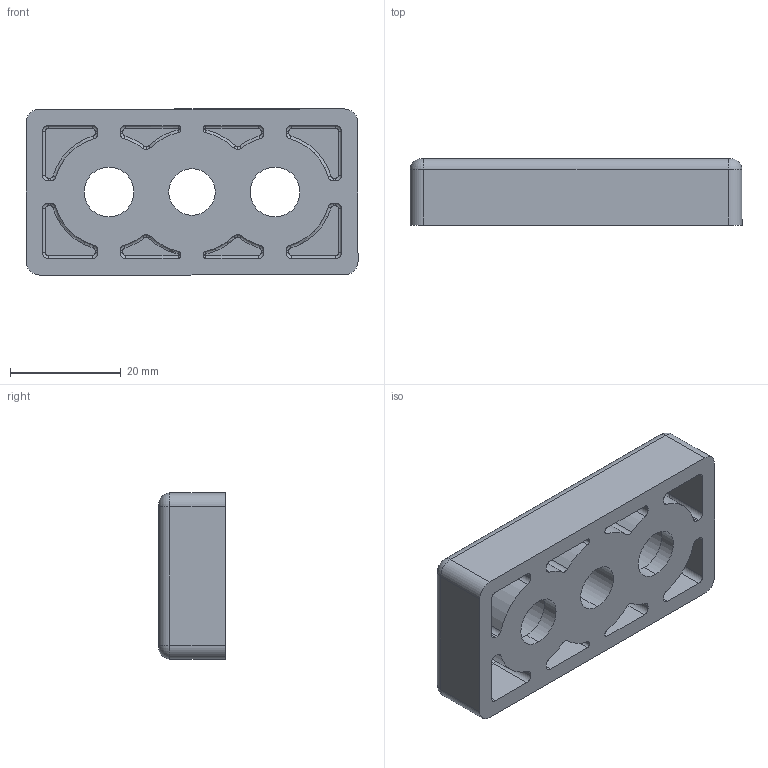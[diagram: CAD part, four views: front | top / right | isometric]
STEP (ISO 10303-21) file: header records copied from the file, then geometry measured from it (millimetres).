
FILE_DESCRIPTION (( 'STEP AP203' ), '1' );
FILE_NAME ('10136-01-0000-00.STEP', '2018-03-15T09:19:48', ( '' ), ( '' ), 'SwSTEP 2.0', 'SolidWorks 2017', '' );
FILE_SCHEMA (( 'CONFIG_CONTROL_DESIGN' ));
Length unit declared in the file: millimetre
Products named in the file (1): 10136-01-0000-00
Bounding box: 60 x 12 x 30 mm (x, y, z)
Volume: 15520.4 mm3; surface area: 8360.7 mm2
Topology: 1 solids, 1 shells, 212 faces, 514 edges, 310 vertices
Faces by surface type: cylinder 100, torus 56, plane 44, sphere 10, cone 2
Entity records: 6331 total; most frequent: CARTESIAN_POINT 1185, DIRECTION 1184, ORIENTED_EDGE 1004, EDGE_CURVE 502, AXIS2_PLACEMENT_3D 493, VERTEX_POINT 302, CIRCLE 280, EDGE_LOOP 228
